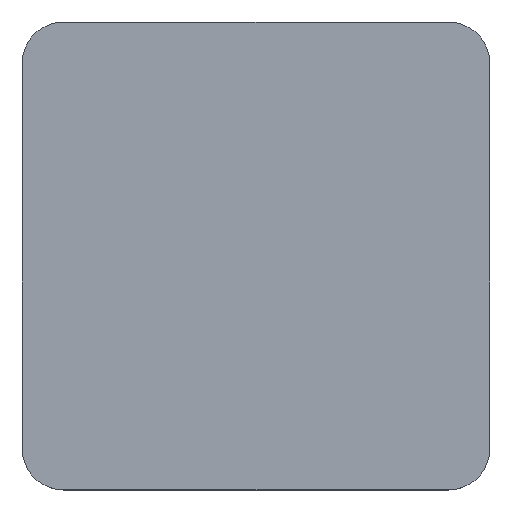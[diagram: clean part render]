
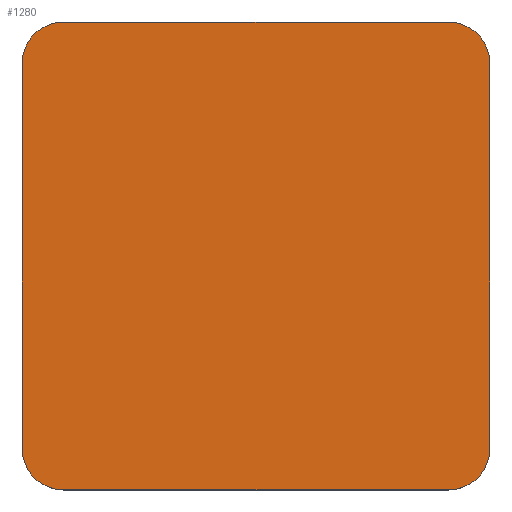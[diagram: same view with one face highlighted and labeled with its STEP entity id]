
A CAD part, top view. The second image highlights one B-rep face of the part: STEP entity #1280.
In plain terms, the highlighted planar face has unit normal (0, 0, 1).
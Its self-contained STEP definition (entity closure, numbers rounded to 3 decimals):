
#22 = VERTEX_POINT('',#23);
#23 = CARTESIAN_POINT('',(-0.555,-0.675,0.06));
#32 = PLANE('',#33);
#33 = AXIS2_PLACEMENT_3D('',#34,#35,#36);
#34 = CARTESIAN_POINT('',(-0.675,-0.675,0.));
#35 = DIRECTION('',(0.,1.,0.));
#36 = DIRECTION('',(1.,0.,0.));
#44 = CYLINDRICAL_SURFACE('',#45,0.12);
#45 = AXIS2_PLACEMENT_3D('',#46,#47,#48);
#46 = CARTESIAN_POINT('',(-0.555,-0.555,0.));
#47 = DIRECTION('',(0.,0.,1.));
#48 = DIRECTION('',(0.,-1.,0.));
#56 = EDGE_CURVE('',#22,#57,#59,.T.);
#57 = VERTEX_POINT('',#58);
#58 = CARTESIAN_POINT('',(0.555,-0.675,0.06));
#59 = SURFACE_CURVE('',#60,(#64,#71),.PCURVE_S1.);
#60 = LINE('',#61,#62);
#61 = CARTESIAN_POINT('',(-0.675,-0.675,0.06));
#62 = VECTOR('',#63,1.);
#63 = DIRECTION('',(1.,0.,0.));
#64 = PCURVE('',#32,#65);
#65 = DEFINITIONAL_REPRESENTATION('',(#66),#70);
#66 = LINE('',#67,#68);
#67 = CARTESIAN_POINT('',(0.,-0.06));
#68 = VECTOR('',#69,1.);
#69 = DIRECTION('',(1.,0.));
#70 = ( GEOMETRIC_REPRESENTATION_CONTEXT(2) 
PARAMETRIC_REPRESENTATION_CONTEXT() REPRESENTATION_CONTEXT('2D SPACE',''
  ) );
#71 = PCURVE('',#72,#77);
#72 = PLANE('',#73);
#73 = AXIS2_PLACEMENT_3D('',#74,#75,#76);
#74 = CARTESIAN_POINT('',(0.,0.,0.06)
  );
#75 = DIRECTION('',(0.,0.,1.));
#76 = DIRECTION('',(1.,0.,-0.));
#77 = DEFINITIONAL_REPRESENTATION('',(#78),#82);
#78 = LINE('',#79,#80);
#79 = CARTESIAN_POINT('',(-0.675,-0.675));
#80 = VECTOR('',#81,1.);
#81 = DIRECTION('',(1.,0.));
#82 = ( GEOMETRIC_REPRESENTATION_CONTEXT(2) 
PARAMETRIC_REPRESENTATION_CONTEXT() REPRESENTATION_CONTEXT('2D SPACE',''
  ) );
#100 = CYLINDRICAL_SURFACE('',#101,0.12);
#101 = AXIS2_PLACEMENT_3D('',#102,#103,#104);
#102 = CARTESIAN_POINT('',(0.555,-0.555,0.));
#103 = DIRECTION('',(0.,0.,1.));
#104 = DIRECTION('',(0.,-1.,0.));
#182 = PLANE('',#183);
#183 = AXIS2_PLACEMENT_3D('',#184,#185,#186);
#184 = CARTESIAN_POINT('',(0.675,-0.675,0.));
#185 = DIRECTION('',(-1.,0.,0.));
#186 = DIRECTION('',(0.,1.,0.));
#211 = CYLINDRICAL_SURFACE('',#212,0.12);
#212 = AXIS2_PLACEMENT_3D('',#213,#214,#215);
#213 = CARTESIAN_POINT('',(0.555,0.555,0.));
#214 = DIRECTION('',(0.,0.,1.));
#215 = DIRECTION('',(1.,0.,-0.));
#239 = PLANE('',#240);
#240 = AXIS2_PLACEMENT_3D('',#241,#242,#243);
#241 = CARTESIAN_POINT('',(0.675,0.675,0.));
#242 = DIRECTION('',(0.,-1.,0.));
#243 = DIRECTION('',(-1.,0.,0.));
#268 = CYLINDRICAL_SURFACE('',#269,0.12);
#269 = AXIS2_PLACEMENT_3D('',#270,#271,#272);
#270 = CARTESIAN_POINT('',(-0.555,0.555,0.));
#271 = DIRECTION('',(0.,0.,1.));
#272 = DIRECTION('',(-0.,1.,0.));
#296 = PLANE('',#297);
#297 = AXIS2_PLACEMENT_3D('',#298,#299,#300);
#298 = CARTESIAN_POINT('',(-0.675,0.675,0.));
#299 = DIRECTION('',(1.,0.,-0.));
#300 = DIRECTION('',(0.,-1.,0.));
#987 = EDGE_CURVE('',#988,#990,#992,.T.);
#988 = VERTEX_POINT('',#989);
#989 = CARTESIAN_POINT('',(0.555,0.675,0.06));
#990 = VERTEX_POINT('',#991);
#991 = CARTESIAN_POINT('',(-0.555,0.675,0.06));
#992 = SURFACE_CURVE('',#993,(#997,#1004),.PCURVE_S1.);
#993 = LINE('',#994,#995);
#994 = CARTESIAN_POINT('',(0.675,0.675,0.06));
#995 = VECTOR('',#996,1.);
#996 = DIRECTION('',(-1.,0.,0.));
#997 = PCURVE('',#239,#998);
#998 = DEFINITIONAL_REPRESENTATION('',(#999),#1003);
#999 = LINE('',#1000,#1001);
#1000 = CARTESIAN_POINT('',(0.,-0.06));
#1001 = VECTOR('',#1002,1.);
#1002 = DIRECTION('',(1.,0.));
#1003 = ( GEOMETRIC_REPRESENTATION_CONTEXT(2) 
PARAMETRIC_REPRESENTATION_CONTEXT() REPRESENTATION_CONTEXT('2D SPACE',''
  ) );
#1004 = PCURVE('',#72,#1005);
#1005 = DEFINITIONAL_REPRESENTATION('',(#1006),#1010);
#1006 = LINE('',#1007,#1008);
#1007 = CARTESIAN_POINT('',(0.675,0.675));
#1008 = VECTOR('',#1009,1.);
#1009 = DIRECTION('',(-1.,0.));
#1010 = ( GEOMETRIC_REPRESENTATION_CONTEXT(2) 
PARAMETRIC_REPRESENTATION_CONTEXT() REPRESENTATION_CONTEXT('2D SPACE',''
  ) );
#1059 = VERTEX_POINT('',#1060);
#1060 = CARTESIAN_POINT('',(0.675,0.555,0.06));
#1083 = EDGE_CURVE('',#1059,#988,#1084,.T.);
#1084 = SURFACE_CURVE('',#1085,(#1090,#1097),.PCURVE_S1.);
#1085 = CIRCLE('',#1086,0.12);
#1086 = AXIS2_PLACEMENT_3D('',#1087,#1088,#1089);
#1087 = CARTESIAN_POINT('',(0.555,0.555,0.06));
#1088 = DIRECTION('',(0.,0.,1.));
#1089 = DIRECTION('',(0.,-1.,0.));
#1090 = PCURVE('',#211,#1091);
#1091 = DEFINITIONAL_REPRESENTATION('',(#1092),#1096);
#1092 = LINE('',#1093,#1094);
#1093 = CARTESIAN_POINT('',(-1.571,0.06));
#1094 = VECTOR('',#1095,1.);
#1095 = DIRECTION('',(1.,0.));
#1096 = ( GEOMETRIC_REPRESENTATION_CONTEXT(2) 
PARAMETRIC_REPRESENTATION_CONTEXT() REPRESENTATION_CONTEXT('2D SPACE',''
  ) );
#1097 = PCURVE('',#72,#1098);
#1098 = DEFINITIONAL_REPRESENTATION('',(#1099),#1103);
#1099 = CIRCLE('',#1100,0.12);
#1100 = AXIS2_PLACEMENT_2D('',#1101,#1102);
#1101 = CARTESIAN_POINT('',(0.555,0.555));
#1102 = DIRECTION('',(0.,-1.));
#1103 = ( GEOMETRIC_REPRESENTATION_CONTEXT(2) 
PARAMETRIC_REPRESENTATION_CONTEXT() REPRESENTATION_CONTEXT('2D SPACE',''
  ) );
#1111 = VERTEX_POINT('',#1112);
#1112 = CARTESIAN_POINT('',(-0.675,0.555,0.06));
#1133 = EDGE_CURVE('',#990,#1111,#1134,.T.);
#1134 = SURFACE_CURVE('',#1135,(#1140,#1147),.PCURVE_S1.);
#1135 = CIRCLE('',#1136,0.12);
#1136 = AXIS2_PLACEMENT_3D('',#1137,#1138,#1139);
#1137 = CARTESIAN_POINT('',(-0.555,0.555,0.06));
#1138 = DIRECTION('',(0.,0.,1.));
#1139 = DIRECTION('',(0.,-1.,0.));
#1140 = PCURVE('',#268,#1141);
#1141 = DEFINITIONAL_REPRESENTATION('',(#1142),#1146);
#1142 = LINE('',#1143,#1144);
#1143 = CARTESIAN_POINT('',(-3.142,0.06));
#1144 = VECTOR('',#1145,1.);
#1145 = DIRECTION('',(1.,0.));
#1146 = ( GEOMETRIC_REPRESENTATION_CONTEXT(2) 
PARAMETRIC_REPRESENTATION_CONTEXT() REPRESENTATION_CONTEXT('2D SPACE',''
  ) );
#1147 = PCURVE('',#72,#1148);
#1148 = DEFINITIONAL_REPRESENTATION('',(#1149),#1153);
#1149 = CIRCLE('',#1150,0.12);
#1150 = AXIS2_PLACEMENT_2D('',#1151,#1152);
#1151 = CARTESIAN_POINT('',(-0.555,0.555));
#1152 = DIRECTION('',(0.,-1.));
#1153 = ( GEOMETRIC_REPRESENTATION_CONTEXT(2) 
PARAMETRIC_REPRESENTATION_CONTEXT() REPRESENTATION_CONTEXT('2D SPACE',''
  ) );
#1158 = EDGE_CURVE('',#1159,#1059,#1161,.T.);
#1159 = VERTEX_POINT('',#1160);
#1160 = CARTESIAN_POINT('',(0.675,-0.555,0.06));
#1161 = SURFACE_CURVE('',#1162,(#1166,#1173),.PCURVE_S1.);
#1162 = LINE('',#1163,#1164);
#1163 = CARTESIAN_POINT('',(0.675,-0.675,0.06));
#1164 = VECTOR('',#1165,1.);
#1165 = DIRECTION('',(0.,1.,0.));
#1166 = PCURVE('',#182,#1167);
#1167 = DEFINITIONAL_REPRESENTATION('',(#1168),#1172);
#1168 = LINE('',#1169,#1170);
#1169 = CARTESIAN_POINT('',(0.,-0.06));
#1170 = VECTOR('',#1171,1.);
#1171 = DIRECTION('',(1.,0.));
#1172 = ( GEOMETRIC_REPRESENTATION_CONTEXT(2) 
PARAMETRIC_REPRESENTATION_CONTEXT() REPRESENTATION_CONTEXT('2D SPACE',''
  ) );
#1173 = PCURVE('',#72,#1174);
#1174 = DEFINITIONAL_REPRESENTATION('',(#1175),#1179);
#1175 = LINE('',#1176,#1177);
#1176 = CARTESIAN_POINT('',(0.675,-0.675));
#1177 = VECTOR('',#1178,1.);
#1178 = DIRECTION('',(0.,1.));
#1179 = ( GEOMETRIC_REPRESENTATION_CONTEXT(2) 
PARAMETRIC_REPRESENTATION_CONTEXT() REPRESENTATION_CONTEXT('2D SPACE',''
  ) );
#1208 = EDGE_CURVE('',#1111,#1209,#1211,.T.);
#1209 = VERTEX_POINT('',#1210);
#1210 = CARTESIAN_POINT('',(-0.675,-0.555,0.06));
#1211 = SURFACE_CURVE('',#1212,(#1216,#1223),.PCURVE_S1.);
#1212 = LINE('',#1213,#1214);
#1213 = CARTESIAN_POINT('',(-0.675,0.675,0.06));
#1214 = VECTOR('',#1215,1.);
#1215 = DIRECTION('',(0.,-1.,0.));
#1216 = PCURVE('',#296,#1217);
#1217 = DEFINITIONAL_REPRESENTATION('',(#1218),#1222);
#1218 = LINE('',#1219,#1220);
#1219 = CARTESIAN_POINT('',(0.,-0.06));
#1220 = VECTOR('',#1221,1.);
#1221 = DIRECTION('',(1.,0.));
#1222 = ( GEOMETRIC_REPRESENTATION_CONTEXT(2) 
PARAMETRIC_REPRESENTATION_CONTEXT() REPRESENTATION_CONTEXT('2D SPACE',''
  ) );
#1223 = PCURVE('',#72,#1224);
#1224 = DEFINITIONAL_REPRESENTATION('',(#1225),#1229);
#1225 = LINE('',#1226,#1227);
#1226 = CARTESIAN_POINT('',(-0.675,0.675));
#1227 = VECTOR('',#1228,1.);
#1228 = DIRECTION('',(0.,-1.));
#1229 = ( GEOMETRIC_REPRESENTATION_CONTEXT(2) 
PARAMETRIC_REPRESENTATION_CONTEXT() REPRESENTATION_CONTEXT('2D SPACE',''
  ) );
#1259 = EDGE_CURVE('',#57,#1159,#1260,.T.);
#1260 = SURFACE_CURVE('',#1261,(#1266,#1273),.PCURVE_S1.);
#1261 = CIRCLE('',#1262,0.12);
#1262 = AXIS2_PLACEMENT_3D('',#1263,#1264,#1265);
#1263 = CARTESIAN_POINT('',(0.555,-0.555,0.06));
#1264 = DIRECTION('',(0.,0.,1.));
#1265 = DIRECTION('',(0.,-1.,0.));
#1266 = PCURVE('',#100,#1267);
#1267 = DEFINITIONAL_REPRESENTATION('',(#1268),#1272);
#1268 = LINE('',#1269,#1270);
#1269 = CARTESIAN_POINT('',(0.,0.06));
#1270 = VECTOR('',#1271,1.);
#1271 = DIRECTION('',(1.,0.));
#1272 = ( GEOMETRIC_REPRESENTATION_CONTEXT(2) 
PARAMETRIC_REPRESENTATION_CONTEXT() REPRESENTATION_CONTEXT('2D SPACE',''
  ) );
#1273 = PCURVE('',#72,#1274);
#1274 = DEFINITIONAL_REPRESENTATION('',(#1275),#1279);
#1275 = CIRCLE('',#1276,0.12);
#1276 = AXIS2_PLACEMENT_2D('',#1277,#1278);
#1277 = CARTESIAN_POINT('',(0.555,-0.555));
#1278 = DIRECTION('',(0.,-1.));
#1279 = ( GEOMETRIC_REPRESENTATION_CONTEXT(2) 
PARAMETRIC_REPRESENTATION_CONTEXT() REPRESENTATION_CONTEXT('2D SPACE',''
  ) );
#1280 = ADVANCED_FACE('',(#1281),#72,.T.);
#1281 = FACE_BOUND('',#1282,.T.);
#1282 = EDGE_LOOP('',(#1283,#1284,#1285,#1286,#1287,#1288,#1289,#1290));
#1283 = ORIENTED_EDGE('',*,*,#56,.T.);
#1284 = ORIENTED_EDGE('',*,*,#1259,.T.);
#1285 = ORIENTED_EDGE('',*,*,#1158,.T.);
#1286 = ORIENTED_EDGE('',*,*,#1083,.T.);
#1287 = ORIENTED_EDGE('',*,*,#987,.T.);
#1288 = ORIENTED_EDGE('',*,*,#1133,.T.);
#1289 = ORIENTED_EDGE('',*,*,#1208,.T.);
#1290 = ORIENTED_EDGE('',*,*,#1291,.F.);
#1291 = EDGE_CURVE('',#22,#1209,#1292,.T.);
#1292 = SURFACE_CURVE('',#1293,(#1298,#1309),.PCURVE_S1.);
#1293 = CIRCLE('',#1294,0.12);
#1294 = AXIS2_PLACEMENT_3D('',#1295,#1296,#1297);
#1295 = CARTESIAN_POINT('',(-0.555,-0.555,0.06));
#1296 = DIRECTION('',(-0.,-0.,-1.));
#1297 = DIRECTION('',(0.,-1.,0.));
#1298 = PCURVE('',#72,#1299);
#1299 = DEFINITIONAL_REPRESENTATION('',(#1300),#1308);
#1300 = ( BOUNDED_CURVE() B_SPLINE_CURVE(2,(#1301,#1302,#1303,#1304,
#1305,#1306,#1307),.UNSPECIFIED.,.T.,.F.) B_SPLINE_CURVE_WITH_KNOTS((1,2
    ,2,2,2,1),(-2.094,0.,2.094,4.189,
6.283,8.378),.UNSPECIFIED.) CURVE() 
GEOMETRIC_REPRESENTATION_ITEM() RATIONAL_B_SPLINE_CURVE((1.,0.5,1.,0.5,
1.,0.5,1.)) REPRESENTATION_ITEM('') );
#1301 = CARTESIAN_POINT('',(-0.555,-0.675));
#1302 = CARTESIAN_POINT('',(-0.763,-0.675));
#1303 = CARTESIAN_POINT('',(-0.659,-0.495));
#1304 = CARTESIAN_POINT('',(-0.555,-0.315));
#1305 = CARTESIAN_POINT('',(-0.451,-0.495));
#1306 = CARTESIAN_POINT('',(-0.347,-0.675));
#1307 = CARTESIAN_POINT('',(-0.555,-0.675));
#1308 = ( GEOMETRIC_REPRESENTATION_CONTEXT(2) 
PARAMETRIC_REPRESENTATION_CONTEXT() REPRESENTATION_CONTEXT('2D SPACE',''
  ) );
#1309 = PCURVE('',#44,#1310);
#1310 = DEFINITIONAL_REPRESENTATION('',(#1311),#1315);
#1311 = LINE('',#1312,#1313);
#1312 = CARTESIAN_POINT('',(-0.,0.06));
#1313 = VECTOR('',#1314,1.);
#1314 = DIRECTION('',(-1.,0.));
#1315 = ( GEOMETRIC_REPRESENTATION_CONTEXT(2) 
PARAMETRIC_REPRESENTATION_CONTEXT() REPRESENTATION_CONTEXT('2D SPACE',''
  ) );
